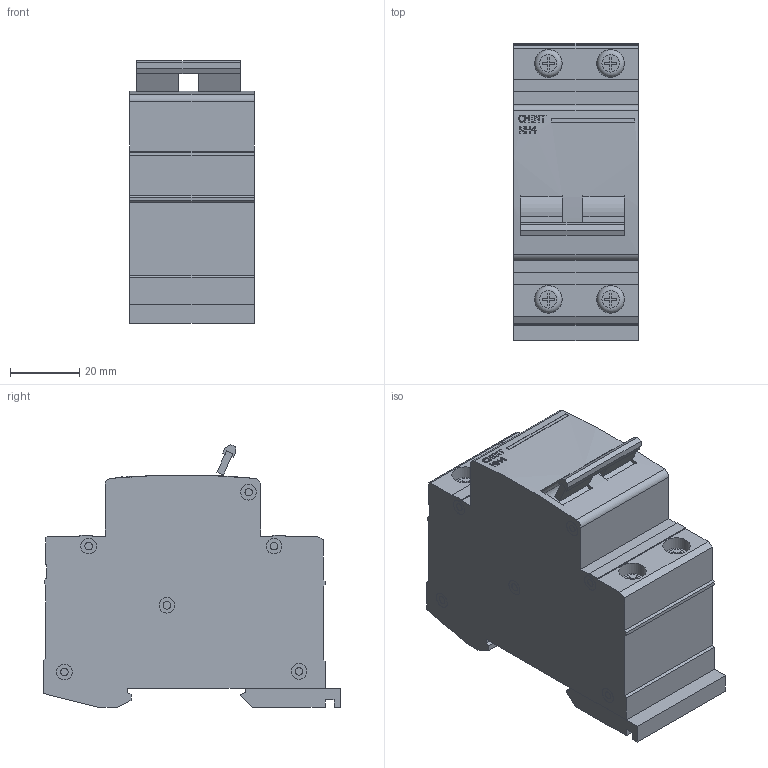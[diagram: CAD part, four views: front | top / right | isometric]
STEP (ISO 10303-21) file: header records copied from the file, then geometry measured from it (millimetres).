
FILE_DESCRIPTION(/* description */ (''),/* implementation_level */ '2;1');
FILE_NAME(/* name */ 'D:\CHINT\NH4\Нагр. выключатель NH4 2P 32A (CHINT).stp',/* time_stamp */ '2017-09-30T15:20:28+04:00',/* author */ ('RSagdiev'),/* organization */ (''),/* preprocessor_version */ 'ST-DEVELOPER v16.5',/* originating_system */ 'Autodesk Inventor 2017',/* authorisation */ '');
FILE_SCHEMA (('AUTOMOTIVE_DESIGN { 1 0 10303 214 3 1 1 }'));
Length unit declared in the file: millimetre
Products named in the file (1): Нагр. \X2\0432044B043A043B044E0447
043004420435043B044C\X0\ NH4 2P 32A (CHINT)
Bounding box: 36 x 86 x 76.01 mm (x, y, z)
Volume: 163033.5 mm3; surface area: 28201.2 mm2
Topology: 11 solids, 15 shells, 380 faces, 878 edges, 580 vertices
Faces by surface type: plane 289, cylinder 71, bspline 16, torus 4
Full cylindrical faces by diameter (mm): 2.111 x4, 2.171 x4, 2.212 x12, 4.524 x18, 8 x8, 13.756 x2
Entity records: 10767 total; most frequent: CARTESIAN_POINT 2142, DIRECTION 1750, ORIENTED_EDGE 1652, EDGE_CURVE 826, AXIS2_PLACEMENT_3D 591, VERTEX_POINT 580, LINE 568, VECTOR 568
